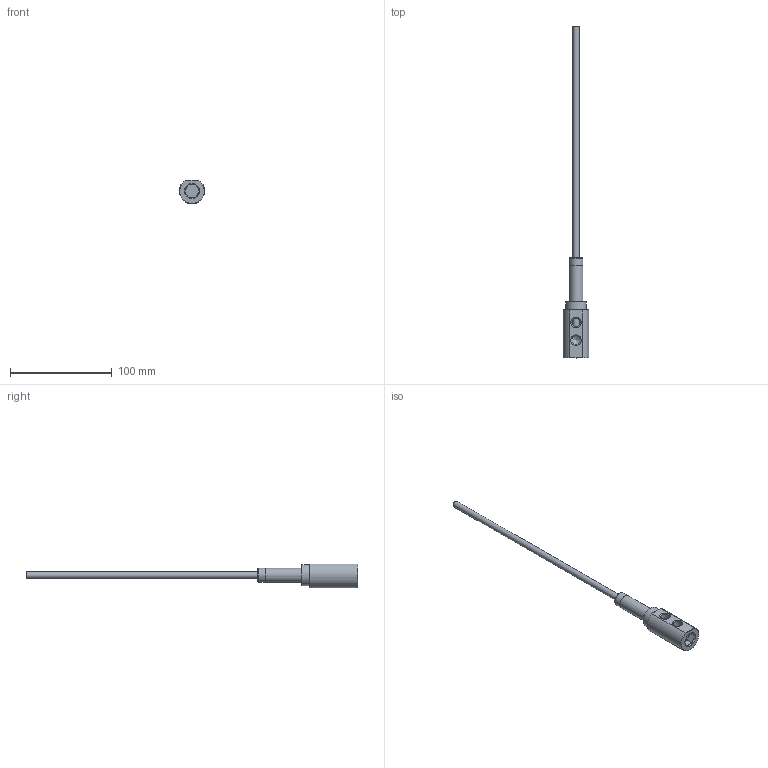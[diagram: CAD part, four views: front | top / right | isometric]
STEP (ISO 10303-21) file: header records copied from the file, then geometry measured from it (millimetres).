
FILE_DESCRIPTION(/* description */ (''),/* implementation_level */ '2;1');
FILE_NAME(/* name */ 'C:/Users/drich/Desktop/E146N v1.step',/* time_stamp */ '2020-01-15T19:30:49-06:00',/* author */ (''),/* organization */ (''),/* preprocessor_version */ 'ST-DEVELOPER v18',/* originating_system */ 'Autodesk Translation Framework v8.12.0.6',/* authorisation */ '');
FILE_SCHEMA (('AUTOMOTIVE_DESIGN { 1 0 10303 214 3 1 1 }'));
Length unit declared in the file: inch
Products named in the file (4): E146N; E146H-4; SSPN14-2; HF250T-12
Assembly tree (3 placements, depth 2):
  E146N
    E146H-4
    SSPN14-2
    HF250T-12
Bounding box: 25.02 x 326.82 x 23.29 mm (x, y, z)
Volume: 24758.6 mm3; surface area: 22743.1 mm2
Topology: 3 solids, 3 shells, 57 faces, 152 edges, 106 vertices
Faces by surface type: plane 23, cylinder 16, cone 12, torus 5, bspline 1
Full cylindrical faces by diameter (mm): 5.842 x1, 6.35 x1, 6.909 x1, 7.818 x1, 7.976 x1, 8.707 x3, 9.246 x1, 11.668 x1, 13.665 x2, 13.716 x1, 15.24 x1, 20.625 x1
Entity records: 2124 total; most frequent: CARTESIAN_POINT 554, DIRECTION 320, ORIENTED_EDGE 300, EDGE_CURVE 150, AXIS2_PLACEMENT_3D 136, VERTEX_POINT 106, CIRCLE 73, EDGE_LOOP 72
